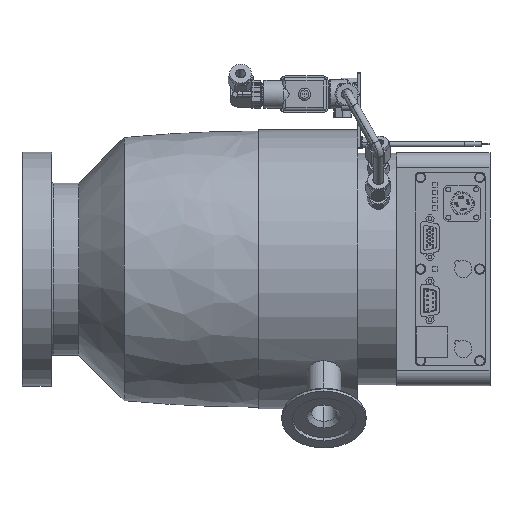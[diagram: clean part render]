
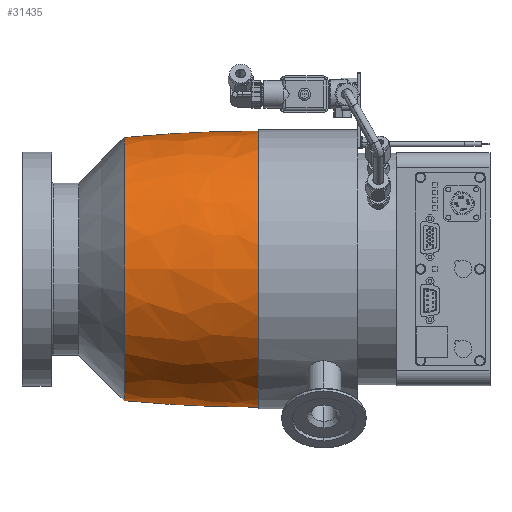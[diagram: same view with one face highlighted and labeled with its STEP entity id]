
A CAD part, front view. The second image highlights one B-rep face of the part: STEP entity #31435.
In plain terms, the highlighted free-form (B-spline) face has degree [3, 3] with [7, 4] control points.
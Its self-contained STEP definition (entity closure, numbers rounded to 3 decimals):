
#4451=CARTESIAN_POINT('',(-71.44,0.,0.));
#4452=DIRECTION('',(-1.,0.,0.));
#4453=DIRECTION('',(0.,0.,-1.));
#4454=AXIS2_PLACEMENT_3D('',#4451,#4452,#4453);
#4456=CARTESIAN_POINT('',(-158.623,0.,0.));
#4457=DIRECTION('',(-1.,0.,0.));
#4458=DIRECTION('',(0.,0.,-1.));
#4459=AXIS2_PLACEMENT_3D('',#4456,#4457,#4458);
#4461=CARTESIAN_POINT('',(-71.44,0.,-810.));
#4462=DIRECTION('',(0.,-1.,0.));
#4463=DIRECTION('',(0.,0.,1.));
#4464=AXIS2_PLACEMENT_3D('',#4461,#4462,#4463);
#4471=CARTESIAN_POINT('',(-71.44,0.,810.));
#4472=DIRECTION('',(0.,1.,0.));
#4473=DIRECTION('',(0.,0.,-1.));
#4474=AXIS2_PLACEMENT_3D('',#4471,#4472,#4473);
#21659=CARTESIAN_POINT('',(-158.623,0.,85.767));
#21660=VERTEX_POINT('',#21659);
#21661=CARTESIAN_POINT('',(-71.44,0.,90.));
#21662=VERTEX_POINT('',#21661);
#21681=CARTESIAN_POINT('',(-158.623,0.,
-85.767));
#21682=VERTEX_POINT('',#21681);
#21683=CARTESIAN_POINT('',(-71.44,0.,-90.));
#21684=VERTEX_POINT('',#21683);
#31397=CARTESIAN_POINT('',(-160.361,5.375,
85.428));
#31398=CARTESIAN_POINT('',(-130.225,5.563,
88.414));
#31399=CARTESIAN_POINT('',(-99.977,5.655,
89.879));
#31400=CARTESIAN_POINT('',(-69.694,5.651,
89.821));
#31401=CARTESIAN_POINT('',(-160.361,-47.197,
88.735));
#31402=CARTESIAN_POINT('',(-130.225,-48.847,
91.837));
#31403=CARTESIAN_POINT('',(-99.977,-49.657,
93.359));
#31404=CARTESIAN_POINT('',(-69.694,-49.625,
93.298));
#31405=CARTESIAN_POINT('',(-160.361,-85.596,
52.676));
#31406=CARTESIAN_POINT('',(-130.225,-88.589,
54.517));
#31407=CARTESIAN_POINT('',(-99.977,-90.057,
55.421));
#31408=CARTESIAN_POINT('',(-69.694,-89.998,
55.385));
#31409=CARTESIAN_POINT('',(-160.361,-85.596,
0.));
#31410=CARTESIAN_POINT('',(-130.225,-88.589,0.));
#31411=CARTESIAN_POINT('',(-99.977,-90.057,0.));
#31412=CARTESIAN_POINT('',(-69.694,-89.998,0.));
#31413=CARTESIAN_POINT('',(-160.361,-85.596,
-52.676));
#31414=CARTESIAN_POINT('',(-130.225,-88.589,
-54.517));
#31415=CARTESIAN_POINT('',(-99.977,-90.057,
-55.421));
#31416=CARTESIAN_POINT('',(-69.694,-89.998,
-55.385));
#31417=CARTESIAN_POINT('',(-160.361,-47.197,
-88.735));
#31418=CARTESIAN_POINT('',(-130.225,-48.847,
-91.837));
#31419=CARTESIAN_POINT('',(-99.977,-49.657,
-93.359));
#31420=CARTESIAN_POINT('',(-69.694,-49.625,
-93.298));
#31421=CARTESIAN_POINT('',(-160.361,5.375,
-85.428));
#31422=CARTESIAN_POINT('',(-130.225,5.563,
-88.414));
#31423=CARTESIAN_POINT('',(-99.977,5.655,
-89.879));
#31424=CARTESIAN_POINT('',(-69.694,5.651,
-89.821));
#31425=(BOUNDED_SURFACE()B_SPLINE_SURFACE(3,3,((#31397,#31398,#31399,#31400),(
#31401,#31402,#31403,#31404),(#31405,#31406,#31407,#31408),(#31409,#31410,
#31411,#31412),(#31413,#31414,#31415,#31416),(#31417,#31418,#31419,#31420),(
#31421,#31422,#31423,#31424)),.UNSPECIFIED.,.F.,.F.,.F.)B_SPLINE_SURFACE_WITH_KNOTS((4,3,4),(4,4),(0.,1.,2.),(0.,1.),.UNSPECIFIED.)GEOMETRIC_REPRESENTATION_ITEM()RATIONAL_B_SPLINE_SURFACE(((1.188,1.187,
1.187,1.188),(0.938,0.937,
0.937,0.938),(0.938,0.937,
0.937,0.938),(1.188,1.187,
1.187,1.188),(0.938,0.937,
0.937,0.938),(0.938,0.937,
0.937,0.938),(1.188,1.187,
1.187,1.188)))REPRESENTATION_ITEM('')SURFACE());
#31427=ORIENTED_EDGE('',*,*,#31426,.F.);
#31428=ORIENTED_EDGE('',*,*,#31392,.F.);
#31430=ORIENTED_EDGE('',*,*,#31429,.T.);
#31432=ORIENTED_EDGE('',*,*,#31431,.T.);
#31433=EDGE_LOOP('',(#31427,#31428,#31430,#31432));
#31434=FACE_OUTER_BOUND('',#31433,.F.);
#31435=ADVANCED_FACE('',(#31434),#31425,.T.);
#4455=CIRCLE('',#4454,90.);
#4460=CIRCLE('',#4459,85.767);
#4465=CIRCLE('',#4464,900.);
#4475=CIRCLE('',#4474,900.);
#31392=EDGE_CURVE('',#21684,#21662,#4455,.T.);
#31426=EDGE_CURVE('',#21662,#21660,#4465,.T.);
#31429=EDGE_CURVE('',#21684,#21682,#4475,.T.);
#31431=EDGE_CURVE('',#21682,#21660,#4460,.T.);
